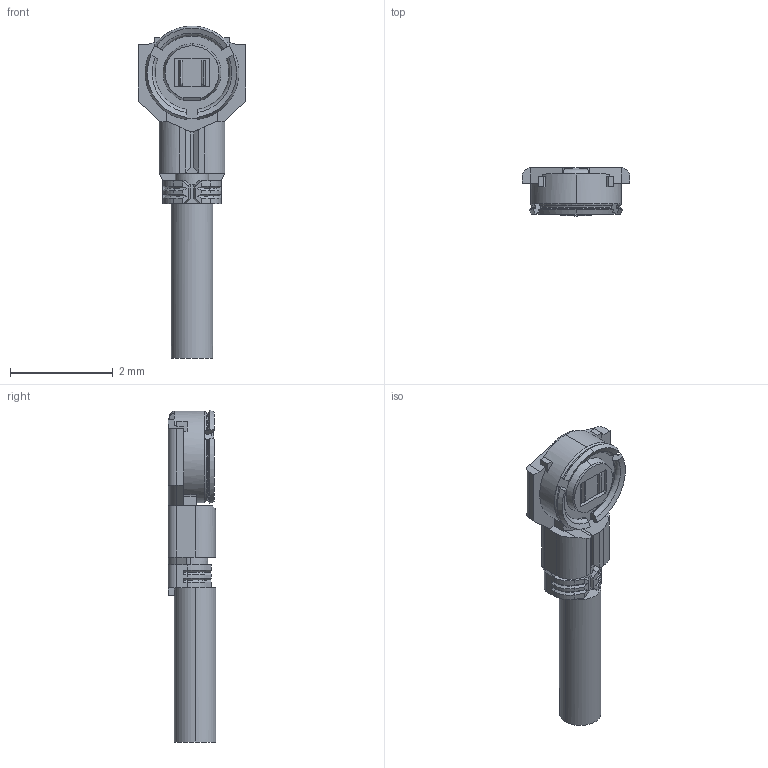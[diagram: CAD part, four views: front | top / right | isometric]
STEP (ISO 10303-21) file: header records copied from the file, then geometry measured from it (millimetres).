
FILE_DESCRIPTION (( 'STEP AP203' ), '1' );
FILE_NAME ('20611-001RC PLUG STEP R2 ALL.STEP', '2018-04-26T01:47:39', ( '' ), ( '' ), 'SwSTEP 2.0', 'SolidWorks 2017', '' );
FILE_SCHEMA (( 'CONFIG_CONTROL_DESIGN' ));
Length unit declared in the file: millimetre
Products named in the file (1): 20611-001RC PLUG STEP R2 ALL
Bounding box: 2.1 x 0.93 x 6.46 mm (x, y, z)
Volume: 5.3 mm3; surface area: 29.7 mm2
Topology: 1 solids, 1 shells, 225 faces, 582 edges, 369 vertices
Faces by surface type: plane 145, cylinder 36, cone 21, torus 19, bspline 4
Entity records: 7169 total; most frequent: CARTESIAN_POINT 1697, ORIENTED_EDGE 1164, DIRECTION 1072, EDGE_CURVE 582, LINE 380, VECTOR 380, VERTEX_POINT 369, AXIS2_PLACEMENT_3D 346
